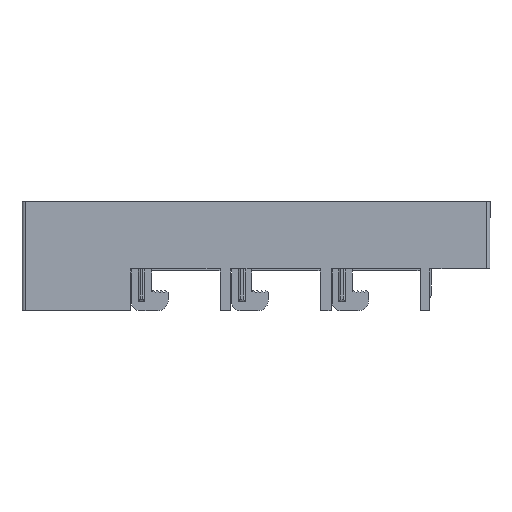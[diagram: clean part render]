
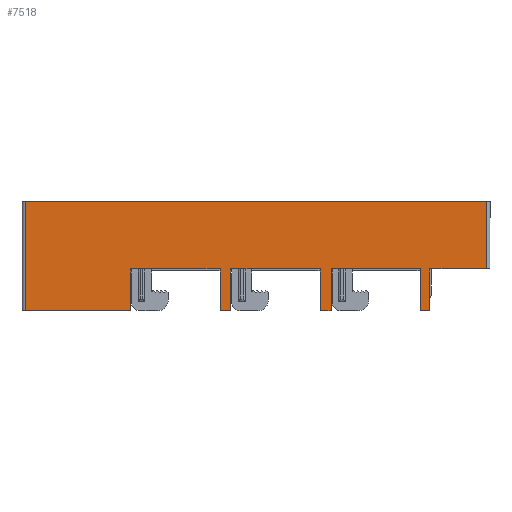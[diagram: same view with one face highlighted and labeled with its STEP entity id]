
A CAD part, left-side view. The second image highlights one B-rep face of the part: STEP entity #7518.
In plain terms, the highlighted planar face has unit normal (-1, 0, 0).
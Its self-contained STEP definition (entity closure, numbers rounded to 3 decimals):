
#701 = CARTESIAN_POINT ( 'NONE',  ( 4.571, 101.5, -50. ) ) ;
#706 = DIRECTION ( 'NONE',  ( 0., 0., 1. ) ) ;
#908 = LINE ( 'NONE', #29876, #90531 ) ;
#4061 = CARTESIAN_POINT ( 'NONE',  ( 4.571, 155., -25. ) ) ;
#4094 = VERTEX_POINT ( 'NONE', #86554 ) ;
#4824 = ORIENTED_EDGE ( 'NONE', *, *, #56605, .T. ) ;
#4852 = CARTESIAN_POINT ( 'NONE',  ( 4.571, 215., -50. ) ) ;
#5733 = EDGE_LOOP ( 'NONE', ( #31832, #71800, #26805, #13254, #17597, #30642, #65544, #21177, #88888, #76702, #94419, #97022, #66725, #24989, #111797, #4824, #26258, #92496 ) ) ;
#6074 = VERTEX_POINT ( 'NONE', #18590 ) ;
#6415 = FACE_OUTER_BOUND ( 'NONE', #5733, .T. ) ;
#7518 = ADVANCED_FACE ( 'NONE', ( #6415 ), #95601, .F. ) ;
#10677 = EDGE_CURVE ( 'NONE', #15562, #95740, #12499, .T. ) ;
#10752 = EDGE_CURVE ( 'NONE', #84686, #80258, #21964, .T. ) ;
#11656 = CARTESIAN_POINT ( 'NONE',  ( 4.571, 155., -25. ) ) ;
#12263 = LINE ( 'NONE', #64169, #27086 ) ;
#12499 = LINE ( 'NONE', #30491, #34190 ) ;
#12945 = LINE ( 'NONE', #51107, #102453 ) ;
#13254 = ORIENTED_EDGE ( 'NONE', *, *, #95828, .T. ) ;
#13873 = LINE ( 'NONE', #27973, #100678 ) ;
#14813 = EDGE_CURVE ( 'NONE', #76596, #38866, #34718, .T. ) ;
#15318 = EDGE_CURVE ( 'NONE', #99395, #80258, #12945, .T. ) ;
#15562 = VERTEX_POINT ( 'NONE', #11656 ) ;
#16082 = CARTESIAN_POINT ( 'NONE',  ( 4.571, 2., 15.5 ) ) ;
#17135 = VECTOR ( 'NONE', #59240, 1000. ) ;
#17597 = ORIENTED_EDGE ( 'NONE', *, *, #40048, .T. ) ;
#18241 = VERTEX_POINT ( 'NONE', #4852 ) ;
#18590 = CARTESIAN_POINT ( 'NONE',  ( 4.571, 278., 15.5 ) ) ;
#19961 = EDGE_CURVE ( 'NONE', #76596, #37633, #24337, .T. ) ;
#20330 = CARTESIAN_POINT ( 'NONE',  ( 4.571, 155., -50. ) ) ;
#21177 = ORIENTED_EDGE ( 'NONE', *, *, #90661, .T. ) ;
#21501 = LINE ( 'NONE', #31507, #55425 ) ;
#21738 = VERTEX_POINT ( 'NONE', #65307 ) ;
#21777 = CARTESIAN_POINT ( 'NONE',  ( 4.571, 36., -50. ) ) ;
#21964 = LINE ( 'NONE', #71910, #59925 ) ;
#23628 = LINE ( 'NONE', #100058, #67099 ) ;
#24337 = LINE ( 'NONE', #25465, #74553 ) ;
#24989 = ORIENTED_EDGE ( 'NONE', *, *, #29859, .T. ) ;
#25465 = CARTESIAN_POINT ( 'NONE',  ( 4.571, 155., -25. ) ) ;
#26084 = VECTOR ( 'NONE', #59041, 1000. ) ;
#26258 = ORIENTED_EDGE ( 'NONE', *, *, #14813, .F. ) ;
#26805 = ORIENTED_EDGE ( 'NONE', *, *, #38198, .F. ) ;
#26844 = CARTESIAN_POINT ( 'NONE',  ( 4.571, 161.5, -25. ) ) ;
#27086 = VECTOR ( 'NONE', #90372, 1000. ) ;
#27973 = CARTESIAN_POINT ( 'NONE',  ( 4.571, 278., 15.5 ) ) ;
#29859 = EDGE_CURVE ( 'NONE', #84686, #4094, #84550, .T. ) ;
#29876 = CARTESIAN_POINT ( 'NONE',  ( 4.571, 155., -25. ) ) ;
#30268 = CARTESIAN_POINT ( 'NONE',  ( 4.571, 95., -25. ) ) ;
#30491 = CARTESIAN_POINT ( 'NONE',  ( 4.571, 155., 15.5 ) ) ;
#30642 = ORIENTED_EDGE ( 'NONE', *, *, #42347, .T. ) ;
#30782 = DIRECTION ( 'NONE',  ( 0., 0., -1. ) ) ;
#30916 = VERTEX_POINT ( 'NONE', #47362 ) ;
#31507 = CARTESIAN_POINT ( 'NONE',  ( 4.571, 41.5, -50. ) ) ;
#31832 = ORIENTED_EDGE ( 'NONE', *, *, #83065, .F. ) ;
#32064 = DIRECTION ( 'NONE',  ( 0., -1., 0. ) ) ;
#32598 = CARTESIAN_POINT ( 'NONE',  ( 4.571, 161.5, -50. ) ) ;
#32907 = CARTESIAN_POINT ( 'NONE',  ( 4.571, 36., -50. ) ) ;
#34190 = VECTOR ( 'NONE', #72643, 1000. ) ;
#34706 = CARTESIAN_POINT ( 'NONE',  ( 4.571, 36., -25. ) ) ;
#34718 = LINE ( 'NONE', #50116, #17135 ) ;
#36892 = LINE ( 'NONE', #81748, #95138 ) ;
#37633 = VERTEX_POINT ( 'NONE', #71760 ) ;
#38198 = EDGE_CURVE ( 'NONE', #45091, #6074, #13873, .T. ) ;
#38866 = VERTEX_POINT ( 'NONE', #21777 ) ;
#40048 = EDGE_CURVE ( 'NONE', #18241, #21738, #12263, .T. ) ;
#40168 = VECTOR ( 'NONE', #101587, 1000. ) ;
#40839 = CARTESIAN_POINT ( 'NONE',  ( 4.571, 155., -50. ) ) ;
#41525 = EDGE_CURVE ( 'NONE', #4094, #55099, #21501, .T. ) ;
#42329 = DIRECTION ( 'NONE',  ( 0., 0., 1. ) ) ;
#42347 = EDGE_CURVE ( 'NONE', #21738, #89342, #908, .T. ) ;
#43396 = VECTOR ( 'NONE', #101045, 1000. ) ;
#45091 = VERTEX_POINT ( 'NONE', #65402 ) ;
#46078 = CARTESIAN_POINT ( 'NONE',  ( 4.571, 95., -50. ) ) ;
#46440 = DIRECTION ( 'NONE',  ( 0., 0., 1. ) ) ;
#47362 = CARTESIAN_POINT ( 'NONE',  ( 4.571, 101.5, -25. ) ) ;
#47689 = DIRECTION ( 'NONE',  ( 0., -1., 0. ) ) ;
#48100 = DIRECTION ( 'NONE',  ( 0., -1., 0. ) ) ;
#49215 = LINE ( 'NONE', #40839, #26084 ) ;
#50116 = CARTESIAN_POINT ( 'NONE',  ( 4.571, 36., 15.5 ) ) ;
#51037 = LINE ( 'NONE', #32907, #40168 ) ;
#51107 = CARTESIAN_POINT ( 'NONE',  ( 4.571, 95., -50. ) ) ;
#51645 = DIRECTION ( 'NONE',  ( 0., -1., 0. ) ) ;
#53241 = LINE ( 'NONE', #59725, #87240 ) ;
#53860 = LINE ( 'NONE', #78884, #98642 ) ;
#55099 = VERTEX_POINT ( 'NONE', #79287 ) ;
#55229 = DIRECTION ( 'NONE',  ( 0., -1., 0. ) ) ;
#55425 = VECTOR ( 'NONE', #30782, 1000. ) ;
#56605 = EDGE_CURVE ( 'NONE', #55099, #38866, #51037, .T. ) ;
#57471 = CARTESIAN_POINT ( 'NONE',  ( 4.571, 215., -50. ) ) ;
#59041 = DIRECTION ( 'NONE',  ( 0., -1., 0. ) ) ;
#59240 = DIRECTION ( 'NONE',  ( 0., 0., -1. ) ) ;
#59725 = CARTESIAN_POINT ( 'NONE',  ( 4.571, 280., 15.5 ) ) ;
#59925 = VECTOR ( 'NONE', #90119, 1000. ) ;
#60641 = LINE ( 'NONE', #102629, #105473 ) ;
#61039 = DIRECTION ( 'NONE',  ( 0., 0., -1. ) ) ;
#61116 = CARTESIAN_POINT ( 'NONE',  ( 4.571, 280., 15.5 ) ) ;
#64169 = CARTESIAN_POINT ( 'NONE',  ( 4.571, 215., -50. ) ) ;
#65307 = CARTESIAN_POINT ( 'NONE',  ( 4.571, 215., -25. ) ) ;
#65402 = CARTESIAN_POINT ( 'NONE',  ( 4.571, 278., -50. ) ) ;
#65544 = ORIENTED_EDGE ( 'NONE', *, *, #91059, .F. ) ;
#66725 = ORIENTED_EDGE ( 'NONE', *, *, #10752, .F. ) ;
#67099 = VECTOR ( 'NONE', #48100, 1000. ) ;
#69315 = DIRECTION ( 'NONE',  ( 0., -1., 0. ) ) ;
#71760 = CARTESIAN_POINT ( 'NONE',  ( 4.571, 2., -25. ) ) ;
#71800 = ORIENTED_EDGE ( 'NONE', *, *, #86539, .F. ) ;
#71910 = CARTESIAN_POINT ( 'NONE',  ( 4.571, 95., 15.5 ) ) ;
#72643 = DIRECTION ( 'NONE',  ( 0., 0., -1. ) ) ;
#73267 = LINE ( 'NONE', #57471, #43396 ) ;
#74553 = VECTOR ( 'NONE', #51645, 1000. ) ;
#75040 = EDGE_CURVE ( 'NONE', #99395, #30916, #60641, .T. ) ;
#76378 = VECTOR ( 'NONE', #55229, 1000. ) ;
#76596 = VERTEX_POINT ( 'NONE', #34706 ) ;
#76702 = ORIENTED_EDGE ( 'NONE', *, *, #84777, .T. ) ;
#78884 = CARTESIAN_POINT ( 'NONE',  ( 4.571, 2., 15.5 ) ) ;
#79287 = CARTESIAN_POINT ( 'NONE',  ( 4.571, 41.5, -50. ) ) ;
#80258 = VERTEX_POINT ( 'NONE', #46078 ) ;
#81748 = CARTESIAN_POINT ( 'NONE',  ( 4.571, 161.5, 15.5 ) ) ;
#83065 = EDGE_CURVE ( 'NONE', #95396, #37633, #53860, .T. ) ;
#84550 = LINE ( 'NONE', #4061, #76378 ) ;
#84686 = VERTEX_POINT ( 'NONE', #30268 ) ;
#84777 = EDGE_CURVE ( 'NONE', #15562, #30916, #23628, .T. ) ;
#86539 = EDGE_CURVE ( 'NONE', #6074, #95396, #53241, .T. ) ;
#86554 = CARTESIAN_POINT ( 'NONE',  ( 4.571, 41.5, -25. ) ) ;
#87240 = VECTOR ( 'NONE', #32064, 1000. ) ;
#88888 = ORIENTED_EDGE ( 'NONE', *, *, #10677, .F. ) ;
#89342 = VERTEX_POINT ( 'NONE', #26844 ) ;
#90081 = VERTEX_POINT ( 'NONE', #32598 ) ;
#90119 = DIRECTION ( 'NONE',  ( 0., 0., -1. ) ) ;
#90372 = DIRECTION ( 'NONE',  ( 0., 0., 1. ) ) ;
#90531 = VECTOR ( 'NONE', #47689, 1000. ) ;
#90661 = EDGE_CURVE ( 'NONE', #90081, #95740, #49215, .T. ) ;
#91059 = EDGE_CURVE ( 'NONE', #90081, #89342, #36892, .T. ) ;
#91300 = AXIS2_PLACEMENT_3D ( 'NONE', #61116, #95985, #111968 ) ;
#92496 = ORIENTED_EDGE ( 'NONE', *, *, #19961, .T. ) ;
#94419 = ORIENTED_EDGE ( 'NONE', *, *, #75040, .F. ) ;
#95138 = VECTOR ( 'NONE', #46440, 1000. ) ;
#95396 = VERTEX_POINT ( 'NONE', #16082 ) ;
#95601 = PLANE ( 'NONE',  #91300 ) ;
#95740 = VERTEX_POINT ( 'NONE', #20330 ) ;
#95828 = EDGE_CURVE ( 'NONE', #45091, #18241, #73267, .T. ) ;
#95985 = DIRECTION ( 'NONE',  ( 1., 0., 0. ) ) ;
#97022 = ORIENTED_EDGE ( 'NONE', *, *, #15318, .T. ) ;
#98642 = VECTOR ( 'NONE', #61039, 1000. ) ;
#99395 = VERTEX_POINT ( 'NONE', #701 ) ;
#100058 = CARTESIAN_POINT ( 'NONE',  ( 4.571, 280., -25. ) ) ;
#100678 = VECTOR ( 'NONE', #706, 1000. ) ;
#101045 = DIRECTION ( 'NONE',  ( 0., -1., 0. ) ) ;
#101587 = DIRECTION ( 'NONE',  ( 0., -1., 0. ) ) ;
#102453 = VECTOR ( 'NONE', #69315, 1000. ) ;
#102629 = CARTESIAN_POINT ( 'NONE',  ( 4.571, 101.5, 15.5 ) ) ;
#105473 = VECTOR ( 'NONE', #42329, 1000. ) ;
#111797 = ORIENTED_EDGE ( 'NONE', *, *, #41525, .T. ) ;
#111968 = DIRECTION ( 'NONE',  ( 0., 1., 0. ) ) ;
